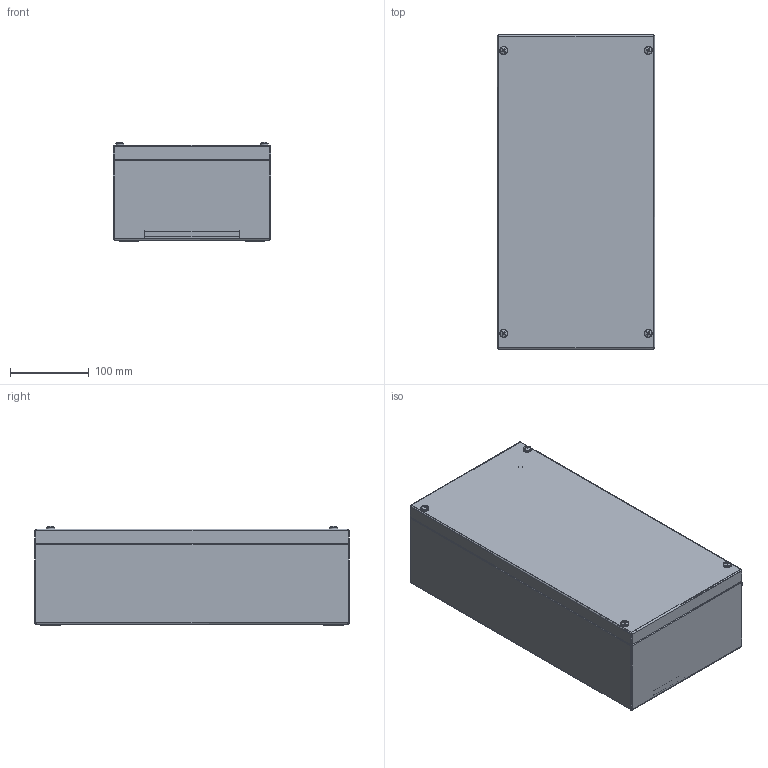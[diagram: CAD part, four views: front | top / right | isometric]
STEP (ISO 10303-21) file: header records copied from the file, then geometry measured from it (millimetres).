
FILE_DESCRIPTION (( 'STEP AP203' ), '1' );
FILE_NAME ('SS JB-400 x 200 x 121-ASSEMBLY.STEP', '2020-03-13T11:15:39', ( '' ), ( '' ), 'SwSTEP 2.0', 'SolidWorks 2018', '' );
FILE_SCHEMA (( 'CONFIG_CONTROL_DESIGN' ));
Length unit declared in the file: millimetre
Products named in the file (7): Dinral Mounting Channel-200; M5X33 LID SCREW; SS JB-400 x 200 x 121-LID_400 x 200 x 121; M5 BLIND NUTSERT; SS JB-400 x 200 x 121-ASSEMBLY; SS JB-400 x 200 x 121-BASE_400 x 200 x 121; PLASTIC INSERT FOR FABRICATED ENCLOSURE
Assembly tree (16 placements, depth 2):
  SS JB-400 x 200 x 121-ASSEMBLY
    SS JB-400 x 200 x 121-BASE_400 x 200 x 121
    SS JB-400 x 200 x 121-LID_400 x 200 x 121
    Dinral Mounting Channel-200  x2
    M5 BLIND NUTSERT  x4
    M5X33 LID SCREW  x4
    PLASTIC INSERT FOR FABRICATED ENCLOSURE  x4
Bounding box: 200 x 400 x 126.81 mm (x, y, z)
Volume: 425268.4 mm3; surface area: 699123 mm2
Topology: 16 solids, 16 shells, 723 faces, 1726 edges, 1068 vertices
Faces by surface type: cylinder 314, plane 265, cone 104, bspline 32, sphere 8
Entity records: 14975 total; most frequent: CARTESIAN_POINT 4880, ORIENTED_EDGE 1920, DIRECTION 1771, EDGE_CURVE 960, AXIS2_PLACEMENT_3D 606, VERTEX_POINT 578, LINE 559, VECTOR 559
